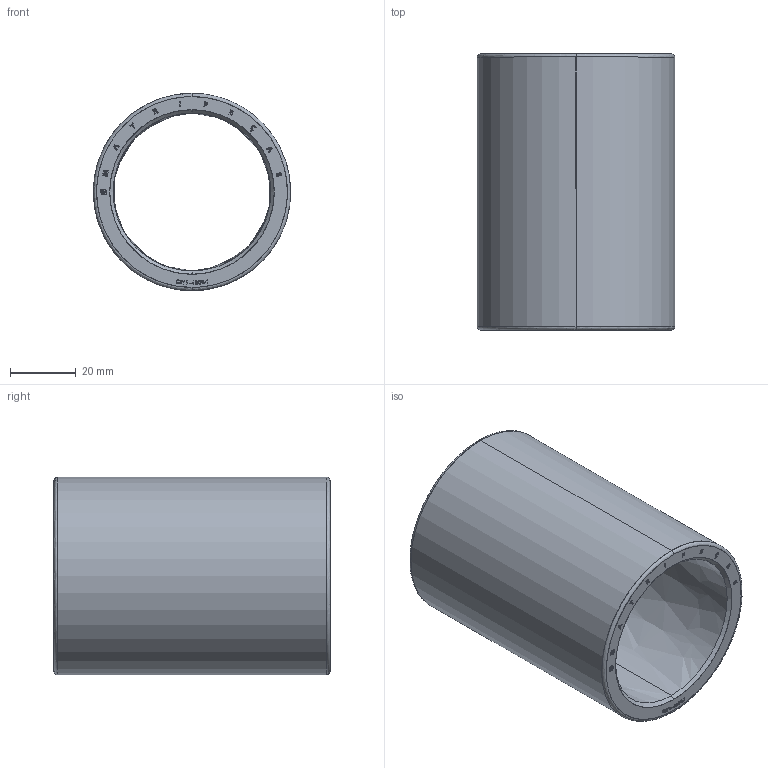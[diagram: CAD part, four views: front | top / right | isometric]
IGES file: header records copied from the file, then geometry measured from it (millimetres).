
Start section: SolidWorks IGES file using analytic representation for surfaces
Global section: file name: D:\Cleonir_arquivos\MT_15_07\Colar De Esferas Tipo 1\CET1-48084.igs; native system: SolidWorks 2013; preprocessor: SolidWorks 2013; author: Cleonir; date: 130728.192601; units: millimetre
Bounding box: 60 x 84 x 60 mm (x, y, z)
Surface area: 30408.6 mm2 (no closed solid volume)
Topology: 0 solids, 0 shells, 321 faces, 3652 edges, 3652 vertices
Faces by surface type: bspline 298, revolution 23
